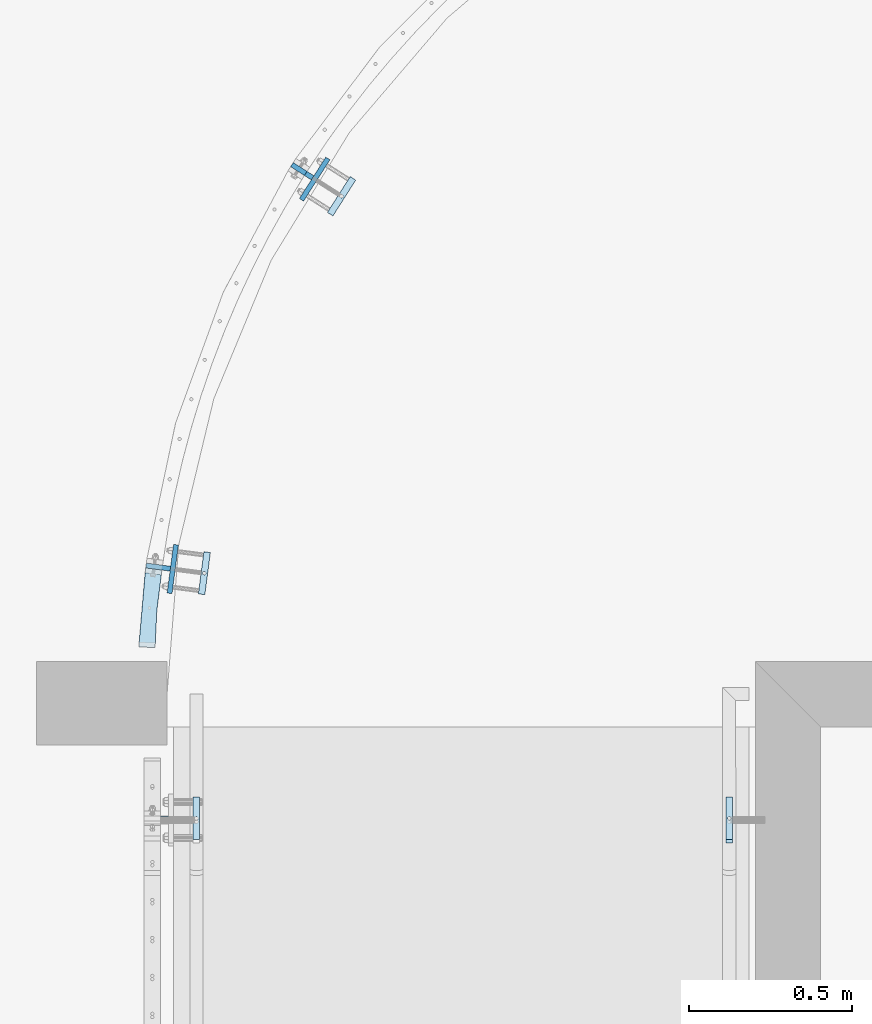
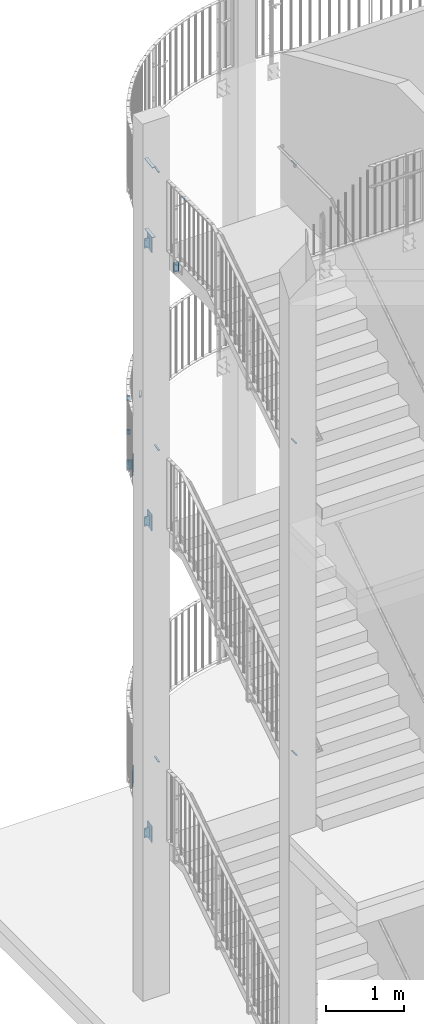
# One storey, part 112 of 296: 22 plates, 46 openings.
"""IFC2X3 building model written with IfcOpenShell, lengths in millimetres."""

import ifcopenshell
import ifcopenshell.guid

model = None  # the IFC model being written
_history = None  # IfcOwnerHistory: only IFC2X3 demands one
_inside = {}  # id of a spatial element -> (the spatial element, [elements in it])
_under = {}  # id of a project, library or spatial element -> (it, [spatial elements below it])
_declared = {}  # id of a project -> (the project, [libraries it declares])
_typed = {}  # id of a type object -> (the type object, [elements of that type])
_made_of = {}  # id of a material, layer set ... -> (it, [elements and type objects made of it])


def new_model(schema):
    """Start an empty IFC model of exactly this schema.

    Asked for "IFC4X3", IfcOpenShell would pick the latest addendum, in which some entities
    have other attributes; the version numbers below select the first issue.
    IFC2X3 requires an IfcOwnerHistory on every rooted entity: one is made here for all.
    """
    global model, _history
    if schema == "IFC4X3":
        model = ifcopenshell.file(schema_version=(4, 3, 0, 0))
    else:
        model = ifcopenshell.file(schema=schema)
    _inside.clear()
    _under.clear()
    _declared.clear()
    _typed.clear()
    _made_of.clear()
    _history = None
    if model.schema == "IFC2X3":
        org = make("IfcOrganization", Name="unknown")
        user = make(
            "IfcPersonAndOrganization",
            ThePerson=make("IfcPerson", FamilyName="unknown"),
            TheOrganization=org,
        )
        app = make(
            "IfcApplication",
            ApplicationDeveloper=org,
            Version="unknown",
            ApplicationFullName="unknown",
            ApplicationIdentifier="unknown",
        )
        _history = make(
            "IfcOwnerHistory",
            OwningUser=user,
            OwningApplication=app,
            ChangeAction="ADDED",
            CreationDate=0,
        )
    return model


def make(cls, **values):
    """One entity of the class cls with the attributes given. An attribute that is None is left unset."""
    return model.create_entity(
        cls, **{name: value for name, value in values.items() if value is not None}
    )


def entity(cls, *values):
    """Any entity or typed value of the class cls, its attributes in the order of the schema. None: left unset."""
    e = model.create_entity(cls)
    for i, value in enumerate(values):
        if value is not None:
            e[i] = value
    return e


def rooted(cls, **values):
    """An entity with a GlobalId (a new one), such as an element, a storey or a relation."""
    return make(cls, GlobalId=ifcopenshell.guid.new(), OwnerHistory=_history, **values)


def si_unit(unit_type, name, prefix=None):
    """IfcSIUnit, for example si_unit("LENGTHUNIT", "METRE", prefix="MILLI")."""
    return make("IfcSIUnit", UnitType=unit_type, Prefix=prefix, Name=name)


def converted_unit(unit_type, name, factor, base, dimensions=None, offset=None):
    """IfcConversionBasedUnit, such as the inch: factor (a typed value) times the base unit."""
    return make(
        "IfcConversionBasedUnit"
        if offset is None
        else "IfcConversionBasedUnitWithOffset",
        ConversionOffset=offset,
        Dimensions=None
        if dimensions is None
        else entity("IfcDimensionalExponents", *dimensions),
        UnitType=unit_type,
        Name=name,
        ConversionFactor=make(
            "IfcMeasureWithUnit", ValueComponent=factor, UnitComponent=base
        ),
    )


def assignment(units):
    """IfcUnitAssignment: the units of a project."""
    return None if units is None else make("IfcUnitAssignment", Units=units)


def point(xyz):
    """IfcCartesianPoint."""
    return None if xyz is None else make("IfcCartesianPoint", Coordinates=xyz)


def direction(xyz):
    """IfcDirection."""
    return None if xyz is None else make("IfcDirection", DirectionRatios=xyz)


def frame(location, z_axis=None, x_axis=None):
    """IfcAxis2Placement3D, a coordinate frame: its origin and axes. An axis left out is left unset."""
    return make(
        "IfcAxis2Placement3D",
        Location=point(location),
        Axis=direction(z_axis),
        RefDirection=direction(x_axis),
    )


def frame_2d(location, x_axis=None):
    """IfcAxis2Placement2D, a coordinate frame in the plane: its origin and x axis."""
    return make(
        "IfcAxis2Placement2D", Location=point(location), RefDirection=direction(x_axis)
    )


def origin():
    """The frame at (0, 0, 0) with its axes left unset."""
    return frame((0.0, 0.0, 0.0))


def origin_with_axes():
    """The frame at (0, 0, 0) with the z axis (0, 0, 1) and the x axis (1, 0, 0) written out."""
    return frame((0.0, 0.0, 0.0), z_axis=(0.0, 0.0, 1.0), x_axis=(1.0, 0.0, 0.0))


def origin_2d_with_axis():
    """The frame at (0, 0) in the plane with the x axis (1, 0) written out."""
    return frame_2d((0.0, 0.0), x_axis=(1.0, 0.0))


def place(relative_to, where):
    """IfcLocalPlacement: puts the frame where relative to a parent placement (None: the world)."""
    return make(
        "IfcLocalPlacement", PlacementRelTo=relative_to, RelativePlacement=where
    )


def context(
    kind, dimensions, precision=None, world=None, true_north=None, identifier=None
):
    """IfcGeometricRepresentationContext, for example the 3D "Model" context."""
    return make(
        "IfcGeometricRepresentationContext",
        ContextIdentifier=identifier,
        ContextType=kind,
        CoordinateSpaceDimension=dimensions,
        Precision=precision,
        WorldCoordinateSystem=world,
        TrueNorth=true_north,
    )


def project(units=None, contexts=None):
    """IfcProject with its units and contexts."""
    return rooted(
        "IfcProject",
        Name="project",
        RepresentationContexts=contexts,
        UnitsInContext=assignment(units),
    )


def spatial(cls, under=None, at=None, **own):
    """A site, building, storey or space (cls), placed at a placement, below another one or the project."""
    s = rooted(cls, ObjectPlacement=at, **own)
    if under is not None:
        _under.setdefault(under.id(), (under, []))[1].append(s)
    return s


def polyline(points):
    """IfcPolyline through the points."""
    return make("IfcPolyline", Points=[point(p) for p in points])


def circle_curve(where, radius):
    """IfcCircle in the frame where."""
    return make("IfcCircle", Position=where, Radius=radius)


def line_curve(start, along, magnitude):
    """IfcLine from a point along a vector."""
    return make(
        "IfcLine",
        Pnt=point(start),
        Dir=make("IfcVector", Orientation=direction(along), Magnitude=magnitude),
    )


def trimmed(basis, trim1, trim2, sense, master):
    """IfcTrimmedCurve: the piece of a basis curve between two trims."""
    return make(
        "IfcTrimmedCurve",
        BasisCurve=basis,
        Trim1=trim1,
        Trim2=trim2,
        SenseAgreement=sense,
        MasterRepresentation=master,
    )


def segment(curve, same_sense, transition):
    """IfcCompositeCurveSegment."""
    return make(
        "IfcCompositeCurveSegment",
        Transition=transition,
        SameSense=same_sense,
        ParentCurve=curve,
    )


def composite_curve(segments, self_intersect=None):
    """IfcCompositeCurve: segments joined end to end."""
    return make("IfcCompositeCurve", Segments=segments, SelfIntersect=self_intersect)


def profile(cls, at=None, kind="AREA", **sizes):
    """A parametric profile (cls). Its sizes go by their IFC names, for example OverallWidth=200.0."""
    return make(cls, ProfileType=kind, Position=at, **sizes)


def circle(**sizes):
    """IfcCircleProfileDef."""
    return profile("IfcCircleProfileDef", **sizes)


def outline(outer, holes=None, kind="AREA"):
    """IfcArbitraryClosedProfileDef: a profile drawn as a closed curve; with holes, ...WithVoids."""
    if holes is None:
        return make("IfcArbitraryClosedProfileDef", ProfileType=kind, OuterCurve=outer)
    return make(
        "IfcArbitraryProfileDefWithVoids",
        ProfileType=kind,
        OuterCurve=outer,
        InnerCurves=holes,
    )


def extrude(swept, where, along, depth):
    """IfcExtrudedAreaSolid: the profile swept, set in the frame where, extruded along a direction by depth."""
    return make(
        "IfcExtrudedAreaSolid",
        SweptArea=swept,
        Position=where,
        ExtrudedDirection=direction(along),
        Depth=depth,
    )


def shape(context_of_items, identifier, shape_type, items):
    """IfcShapeRepresentation: the items that make up one representation, for example the "Body"."""
    return make(
        "IfcShapeRepresentation",
        ContextOfItems=context_of_items,
        RepresentationIdentifier=identifier,
        RepresentationType=shape_type,
        Items=items,
    )


def material(Name=None, Category=None):
    """IfcMaterial."""
    return make("IfcMaterial", Name=Name, Category=Category)


def layer(
    of_material, thickness, ventilated=None, Name=None, Category=None, Priority=None
):
    """IfcMaterialLayer: one layer of a wall or slab, of a material (None: an air gap)."""
    return make(
        "IfcMaterialLayer",
        Material=of_material,
        LayerThickness=thickness,
        IsVentilated=ventilated,
        Name=Name,
        Category=Category,
        Priority=Priority,
    )


def layer_set(layers, Name=None):
    """IfcMaterialLayerSet."""
    return make("IfcMaterialLayerSet", MaterialLayers=layers, LayerSetName=Name)


def made_of(thing, what):
    """Note that an element or type object is made of a material, layer set ...; save() writes the relation."""
    if what is not None:
        _made_of.setdefault(what.id(), (what, []))[1].append(thing)
    return thing


def element(
    cls,
    number,
    at=None,
    inside=None,
    cuts=None,
    type_object=None,
    material=None,
    context=None,
    identifier="Body",
    shape_type=None,
    held_by="IfcProductDefinitionShape",
    body=None,
    shapes=None,
    **own,
):
    """One element of the class cls, such as IfcWall. Its Tag is "e" and its number.

    at: its placement. inside: the storey or other place that contains it. cuts: it is an
    opening in that element (IfcRelVoidsElement). A single representation is given by context,
    identifier, shape_type and body (its items); several are given by shapes. held_by: the class
    of the entity that holds the representations. save() writes the other relations.
    """
    e = rooted(cls, Tag="e%d" % number, ObjectPlacement=at, **own)
    if body is not None:
        shapes = [shape(context, identifier, shape_type, body)]
    if shapes is not None:
        e.Representation = make(held_by, Representations=shapes)
    if inside is not None:
        _inside.setdefault(inside.id(), (inside, []))[1].append(e)
    if cuts is not None:
        rooted(
            "IfcRelVoidsElement", RelatingBuildingElement=cuts, RelatedOpeningElement=e
        )
    if type_object is not None:
        _typed.setdefault(type_object.id(), (type_object, []))[1].append(e)
    return made_of(e, material)


def aggregate(whole, parts):
    """IfcRelAggregates: a whole, such as a stair, and the parts it consists of."""
    return rooted("IfcRelAggregates", RelatingObject=whole, RelatedObjects=parts)


def save(model, path):
    """Write the relations noted so far, then the file.

    IfcRelAggregates (storeys below a building ...), IfcRelContainedInSpatialStructure (elements
    in a storey), IfcRelDefinesByType, IfcRelAssociatesMaterial and IfcRelDeclares: one each for
    every whole, place, type object, material and project.
    """
    for whole, parts in _under.values():
        aggregate(whole, parts)
    for where, things in _inside.values():
        rooted(
            "IfcRelContainedInSpatialStructure",
            RelatedElements=things,
            RelatingStructure=where,
        )
    for kind, things in _typed.values():
        rooted("IfcRelDefinesByType", RelatedObjects=things, RelatingType=kind)
    for what, things in _made_of.values():
        rooted("IfcRelAssociatesMaterial", RelatedObjects=things, RelatingMaterial=what)
    for by, libraries in _declared.values():
        rooted("IfcRelDeclares", RelatingContext=by, RelatedDefinitions=libraries)
    model.write(path)


model = new_model("IFC2X3")

# Units and contexts
model_context = context("Model", 3, precision=1e-09, world=origin_with_axes())
ifc_project = project(units=[si_unit("LENGTHUNIT", "METRE", prefix="MILLI"), si_unit("AREAUNIT", "SQUARE_METRE"), si_unit("VOLUMEUNIT", "CUBIC_METRE"), converted_unit("PLANEANGLEUNIT", "DEGREE", entity("IfcPlaneAngleMeasure", 0.01745329), si_unit("PLANEANGLEUNIT", "RADIAN"), dimensions=[0, 0, 0, 0, 0, 0, 0])], contexts=[model_context])

# Site, building, storey
site_placement = place(None, origin_with_axes())
site = spatial("IfcSite", under=ifc_project, at=site_placement, Name="TZD-S?d | Treppenhausgel?nder", CompositionType="ELEMENT")
building_placement = place(site_placement, origin_with_axes())
building = spatial("IfcBuilding", under=site, at=building_placement, Name="Struktur 1", CompositionType="ELEMENT")
storey_placement = place(building_placement, origin_with_axes())
storey = spatial("IfcBuildingStorey", under=building, at=storey_placement, Name="Default Storey", CompositionType="ELEMENT", Elevation=0.0)

# Plate, openings
ifc_material = material(Name="S235JR")
ifc_layer_1 = layer(ifc_material, 15.0)
ifc_layer_set_1 = layer_set([ifc_layer_1], Name="S235JR")
plate_1_placement = place(None, frame((458.080020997, 1471.601354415, 7100.001), z_axis=(-0.843391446, 0.537299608, 0.0), x_axis=(-0.537299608, -0.843391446, 0.0)))
plate_1 = element("IfcPlate", 1, at=plate_1_placement, inside=storey, material=ifc_layer_set_1, Name="Girder", ObjectType="Girder", context=model_context, shape_type="SweptSolid", body=[
    extrude(outline(polyline([(-75.0, -125.0), (75.0, -125.0), (75.0, 125.0), (-75.0, 125.0), (-75.0, -125.0)])), origin_with_axes(), (0.0, 0.0, 1.0), 15.0),
])
opening_1_placement = place(plate_1_placement, frame((0.0, 0.0, -0.5), z_axis=(0.0, 0.0, 1.0), x_axis=(1.0, 0.0, 0.0)))
element("IfcOpeningElement", 2, at=opening_1_placement, cuts=plate_1, ObjectType="Opening", context=model_context, shape_type="SweptSolid", body=[
    extrude(circle(Radius=7.001, at=frame_2d((55.0, 55.0), x_axis=(1.0, 0.0))), origin(), (0.0, 0.0, 1.0), 16.0),
])
opening_2_placement = place(plate_1_placement, frame((0.0, 0.0, -0.5), z_axis=(0.0, 0.0, 1.0), x_axis=(1.0, 0.0, 0.0)))
element("IfcOpeningElement", 3, at=opening_2_placement, cuts=plate_1, ObjectType="Opening", context=model_context, shape_type="SweptSolid", body=[
    extrude(circle(Radius=7.001, at=frame_2d((-55.0, 55.0), x_axis=(1.0, 0.0))), origin(), (0.0, 0.0, 1.0), 16.0),
])
opening_3_placement = place(plate_1_placement, frame((0.0, 0.0, -0.5), z_axis=(0.0, 0.0, 1.0), x_axis=(1.0, 0.0, 0.0)))
element("IfcOpeningElement", 4, at=opening_3_placement, cuts=plate_1, ObjectType="Opening", context=model_context, shape_type="SweptSolid", body=[
    extrude(circle(Radius=7.001, at=frame_2d((55.0, -55.0), x_axis=(1.0, 0.0))), origin(), (0.0, 0.0, 1.0), 16.0),
])
opening_4_placement = place(plate_1_placement, frame((0.0, 0.0, -0.5), z_axis=(0.0, 0.0, 1.0), x_axis=(1.0, 0.0, 0.0)))
element("IfcOpeningElement", 5, at=opening_4_placement, cuts=plate_1, ObjectType="Opening", context=model_context, shape_type="SweptSolid", body=[
    extrude(circle(Radius=7.001, at=frame_2d((-55.0, -55.0), x_axis=(1.0, 0.0))), origin(), (0.0, 0.0, 1.0), 16.0),
])

plate_2_placement = place(None, frame((417.831717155, 1506.135019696, 7100.001), z_axis=(-0.537299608, -0.843391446, 0.0), x_axis=(0.843391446, -0.537299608, 0.0)))
plate_2 = element("IfcPlate", 6, at=plate_2_placement, inside=storey, material=ifc_layer_set_1, Name="Girder", ObjectType="Girder", context=model_context, shape_type="SweptSolid", body=[
    extrude(outline(polyline([(-37.5, -75.0), (37.5, -75.0), (37.5, 75.0), (-37.5, 75.0), (-37.5, -75.0)])), origin_with_axes(), (0.0, 0.0, 1.0), 15.0),
])
opening_5_placement = place(plate_2_placement, frame((-12.5, 0.0, -0.5), z_axis=(0.0, 0.0, 1.0), x_axis=(1.0, 0.0, 0.0)))
element("IfcOpeningElement", 7, at=opening_5_placement, cuts=plate_2, ObjectType="Opening", context=model_context, shape_type="SweptSolid", body=[
    extrude(circle(Radius=7.001, at=frame_2d((0.0, 50.0), x_axis=(1.0, 0.0))), origin(), (0.0, 0.0, 1.0), 16.0),
])
opening_6_placement = place(plate_2_placement, frame((-12.5, 0.0, -0.5), z_axis=(0.0, 0.0, 1.0), x_axis=(1.0, 0.0, 0.0)))
element("IfcOpeningElement", 8, at=opening_6_placement, cuts=plate_2, ObjectType="Opening", context=model_context, shape_type="SweptSolid", body=[
    extrude(circle(Radius=7.001, at=frame_2d((0.0, -50.0), x_axis=(1.0, 0.0))), origin(), (0.0, 0.0, 1.0), 16.0),
])

plate_3_placement = place(None, frame((407.289324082, 1512.851264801, 7615.001), z_axis=(-0.537299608, -0.843391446, 0.0), x_axis=(0.843391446, -0.537299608, 0.0)))
plate_3 = element("IfcPlate", 9, at=plate_3_placement, inside=storey, material=ifc_layer_set_1, Name="Girder", ObjectType="Girder", context=model_context, shape_type="SweptSolid", body=[
    extrude(outline(polyline([(-25.0, -40.0), (25.0, -40.0), (25.0, 40.0), (-25.0, 40.0), (-25.0, -40.0)])), origin_with_axes(), (0.0, 0.0, 1.0), 15.0),
])
opening_7_placement = place(plate_3_placement, frame((0.0, -1e-09, -0.5), z_axis=(0.0, 0.0, 1.0), x_axis=(1.0, 0.0, 0.0)))
element("IfcOpeningElement", 10, at=opening_7_placement, cuts=plate_3, ObjectType="Opening", context=model_context, shape_type="SweptSolid", body=[
    extrude(circle(Radius=5.001, at=frame_2d((0.0, 25.0), x_axis=(1.0, 0.0))), origin(), (0.0, 0.0, 1.0), 16.0),
])
opening_8_placement = place(plate_3_placement, frame((0.0, -1e-09, -0.5), z_axis=(0.0, 0.0, 1.0), x_axis=(1.0, 0.0, 0.0)))
element("IfcOpeningElement", 11, at=opening_8_placement, cuts=plate_3, ObjectType="Opening", context=model_context, shape_type="SweptSolid", body=[
    extrude(circle(Radius=5.001, at=frame_2d((0.0, -25.0), x_axis=(1.0, 0.0))), origin(), (0.0, 0.0, 1.0), 16.0),
])

plate_4_placement = place(None, frame((407.289324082, 1512.851264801, 8145.001), z_axis=(-0.537299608, -0.843391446, 0.0), x_axis=(0.843391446, -0.537299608, 0.0)))
plate_4 = element("IfcPlate", 12, at=plate_4_placement, inside=storey, material=ifc_layer_set_1, Name="Girder", ObjectType="Girder", context=model_context, shape_type="SweptSolid", body=[
    extrude(outline(polyline([(-25.0, -40.0), (25.0, -40.0), (25.0, 40.0), (-25.0, 40.0), (-25.0, -40.0)])), origin_with_axes(), (0.0, 0.0, 1.0), 15.0),
])
opening_9_placement = place(plate_4_placement, frame((0.0, -1e-09, -0.5), z_axis=(0.0, 0.0, 1.0), x_axis=(1.0, 0.0, 0.0)))
element("IfcOpeningElement", 13, at=opening_9_placement, cuts=plate_4, ObjectType="Opening", context=model_context, shape_type="SweptSolid", body=[
    extrude(circle(Radius=5.001, at=frame_2d((0.0, 25.0), x_axis=(1.0, 0.0))), origin(), (0.0, 0.0, 1.0), 16.0),
])
opening_10_placement = place(plate_4_placement, frame((0.0, -1e-09, -0.5), z_axis=(0.0, 0.0, 1.0), x_axis=(1.0, 0.0, 0.0)))
element("IfcOpeningElement", 14, at=opening_10_placement, cuts=plate_4, ObjectType="Opening", context=model_context, shape_type="SweptSolid", body=[
    extrude(circle(Radius=5.001, at=frame_2d((0.0, -25.0), x_axis=(1.0, 0.0))), origin(), (0.0, 0.0, 1.0), 16.0),
])

# Plate, opening
ifc_layer_2 = layer(ifc_material, 10.0)
ifc_layer_set_2 = layer_set([ifc_layer_2], Name="S235JR")
plate_5_placement = place(None, frame((533.98525112, 1423.244389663, 8210.0), z_axis=(0.0, 0.0, 1.0), x_axis=(-0.537299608, -0.843391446, 0.0)))
plate_5 = element("IfcPlate", 15, at=plate_5_placement, inside=storey, material=ifc_layer_set_2, Name="Girder", ObjectType="Girder", context=model_context, shape_type="SweptSolid", body=[
    extrude(outline(polyline([(-65.0, -10.0), (65.0, -10.0), (65.0, 10.0), (-65.0, 10.0), (-65.0, -10.0)])), origin_with_axes(), (0.0, 0.0, 1.0), 10.0),
])
opening_11_placement = place(plate_5_placement, frame((2.7e-08, 6e-09, -0.5), z_axis=(0.0, 0.0, 1.0), x_axis=(-0.537299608, 0.843391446, 0.0)))
element("IfcOpeningElement", 16, at=opening_11_placement, cuts=plate_5, ObjectType="Opening", context=model_context, shape_type="SweptSolid", body=[
    extrude(circle(Radius=5.001, at=origin_2d_with_axis()), origin(), (0.0, 0.0, 1.0), 11.0),
])

# Plate, openings
plate_6_placement = place(None, frame((25.023780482, 281.789112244, 7100.001), z_axis=(-0.991444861, 0.130526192, 0.0), x_axis=(-0.130526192, -0.991444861, 0.0)))
plate_6 = element("IfcPlate", 17, at=plate_6_placement, inside=storey, material=ifc_layer_set_1, Name="Girder", ObjectType="Girder", context=model_context, shape_type="SweptSolid", body=[
    extrude(outline(polyline([(-75.0, -125.0), (75.0, -125.0), (75.0, 125.0), (-75.0, 125.0), (-75.0, -125.0)])), origin_with_axes(), (0.0, 0.0, 1.0), 15.0),
])
opening_12_placement = place(plate_6_placement, frame((0.0, 0.0, -0.5), z_axis=(0.0, 0.0, 1.0), x_axis=(1.0, 0.0, 0.0)))
element("IfcOpeningElement", 18, at=opening_12_placement, cuts=plate_6, ObjectType="Opening", context=model_context, shape_type="SweptSolid", body=[
    extrude(circle(Radius=7.001, at=frame_2d((55.0, 55.0), x_axis=(1.0, 0.0))), origin(), (0.0, 0.0, 1.0), 16.0),
])
opening_13_placement = place(plate_6_placement, frame((0.0, 0.0, -0.5), z_axis=(0.0, 0.0, 1.0), x_axis=(1.0, 0.0, 0.0)))
element("IfcOpeningElement", 19, at=opening_13_placement, cuts=plate_6, ObjectType="Opening", context=model_context, shape_type="SweptSolid", body=[
    extrude(circle(Radius=7.001, at=frame_2d((-55.0, 55.0), x_axis=(1.0, 0.0))), origin(), (0.0, 0.0, 1.0), 16.0),
])
opening_14_placement = place(plate_6_placement, frame((0.0, 0.0, -0.5), z_axis=(0.0, 0.0, 1.0), x_axis=(1.0, 0.0, 0.0)))
element("IfcOpeningElement", 20, at=opening_14_placement, cuts=plate_6, ObjectType="Opening", context=model_context, shape_type="SweptSolid", body=[
    extrude(circle(Radius=7.001, at=frame_2d((55.0, -55.0), x_axis=(1.0, 0.0))), origin(), (0.0, 0.0, 1.0), 16.0),
])
opening_15_placement = place(plate_6_placement, frame((0.0, 0.0, -0.5), z_axis=(0.0, 0.0, 1.0), x_axis=(1.0, 0.0, 0.0)))
element("IfcOpeningElement", 21, at=opening_15_placement, cuts=plate_6, ObjectType="Opening", context=model_context, shape_type="SweptSolid", body=[
    extrude(circle(Radius=7.001, at=frame_2d((-55.0, -55.0), x_axis=(1.0, 0.0))), origin(), (0.0, 0.0, 1.0), 16.0),
])

plate_7_placement = place(None, frame((-26.048128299, 296.077573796, 7100.001), z_axis=(-0.130526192, -0.991444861, 0.0), x_axis=(0.991444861, -0.130526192, 0.0)))
plate_7 = element("IfcPlate", 22, at=plate_7_placement, inside=storey, material=ifc_layer_set_1, Name="Girder", ObjectType="Girder", context=model_context, shape_type="SweptSolid", body=[
    extrude(outline(polyline([(-37.5, -75.0), (37.5, -75.0), (37.5, 75.0), (-37.5, 75.0), (-37.5, -75.0)])), origin_with_axes(), (0.0, 0.0, 1.0), 15.0),
])
opening_16_placement = place(plate_7_placement, frame((-12.5, 0.0, -0.5), z_axis=(0.0, 0.0, 1.0), x_axis=(1.0, 0.0, 0.0)))
element("IfcOpeningElement", 23, at=opening_16_placement, cuts=plate_7, ObjectType="Opening", context=model_context, shape_type="SweptSolid", body=[
    extrude(circle(Radius=7.001, at=frame_2d((0.0, 50.0), x_axis=(1.0, 0.0))), origin(), (0.0, 0.0, 1.0), 16.0),
])
opening_17_placement = place(plate_7_placement, frame((-12.5, 0.0, -0.5), z_axis=(0.0, 0.0, 1.0), x_axis=(1.0, 0.0, 0.0)))
element("IfcOpeningElement", 24, at=opening_17_placement, cuts=plate_7, ObjectType="Opening", context=model_context, shape_type="SweptSolid", body=[
    extrude(circle(Radius=7.001, at=frame_2d((0.0, -50.0), x_axis=(1.0, 0.0))), origin(), (0.0, 0.0, 1.0), 16.0),
])

# Plate, opening
plate_8_placement = place(None, frame((1720.0, -480.0, 8209.999), z_axis=(0.0, 0.0, -1.0), x_axis=(0.0, -1.0, 0.0)))
plate_8 = element("IfcPlate", 25, at=plate_8_placement, inside=storey, material=ifc_layer_set_2, Name="Girder", ObjectType="Girder", context=model_context, shape_type="SweptSolid", body=[
    extrude(outline(polyline([(-65.0, -10.0), (65.0, -10.0), (65.0, 10.0), (-65.0, 10.0), (-65.0, -10.0)])), origin_with_axes(), (0.0, 0.0, -1.0), 10.0),
])
opening_18_placement = place(plate_8_placement, frame((1e-09, -5.001, 0.5), z_axis=(0.0, 0.0, 1.0), x_axis=(1.0, 0.0, 0.0)))
element("IfcOpeningElement", 26, at=opening_18_placement, cuts=plate_8, ObjectType="Opening", context=model_context, shape_type="SweptSolid", body=[
    extrude(circle(Radius=5.001, at=frame_2d((0.0, 5.001), x_axis=(1.0, 0.0))), origin(), (0.0, 0.0, -1.0), 11.0),
])

plate_9_placement = place(None, frame((1720.0, -490.0, 3309.998), z_axis=(0.0, 0.0, -1.0), x_axis=(0.0, -1.0, 0.0)))
plate_9 = element("IfcPlate", 27, at=plate_9_placement, inside=storey, material=ifc_layer_set_2, Name="Girder", ObjectType="Girder", context=model_context, shape_type="SweptSolid", body=[
    extrude(outline(polyline([(-65.0, -10.0), (65.0, -10.0), (65.0, 10.0), (-65.0, 10.0), (-65.0, -10.0)])), origin_with_axes(), (0.0, 0.0, -1.0), 10.0),
])
opening_19_placement = place(plate_9_placement, frame((0.0, -5.001, 0.5), z_axis=(0.0, 0.0, 1.0), x_axis=(1.0, 0.0, 0.0)))
element("IfcOpeningElement", 28, at=opening_19_placement, cuts=plate_9, ObjectType="Opening", context=model_context, shape_type="SweptSolid", body=[
    extrude(circle(Radius=5.001, at=frame_2d((0.0, 5.001), x_axis=(1.0, 0.0))), origin(), (0.0, 0.0, -1.0), 11.0),
])

plate_10_placement = place(None, frame((114.253818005, 270.041754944, 8210.0), z_axis=(0.0, 0.0, 1.0), x_axis=(-0.130526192, -0.991444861, 0.0)))
plate_10 = element("IfcPlate", 29, at=plate_10_placement, inside=storey, material=ifc_layer_set_2, Name="Girder", ObjectType="Girder", context=model_context, shape_type="SweptSolid", body=[
    extrude(outline(polyline([(-65.0, -10.0), (65.0, -10.0), (65.0, 10.0), (-65.0, 10.0), (-65.0, -10.0)])), origin_with_axes(), (0.0, 0.0, 1.0), 10.0),
])
opening_20_placement = place(plate_10_placement, frame((0.0, 0.0, -0.5), z_axis=(0.0, 0.0, 1.0), x_axis=(-0.130526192, 0.991444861, 0.0)))
element("IfcOpeningElement", 30, at=opening_20_placement, cuts=plate_10, ObjectType="Opening", context=model_context, shape_type="SweptSolid", body=[
    extrude(circle(Radius=5.001, at=origin_2d_with_axis()), origin(), (0.0, 0.0, 1.0), 11.0),
])

plate_11_placement = place(None, frame((1720.0, -480.0, 12585.0), z_axis=(0.0, 0.0, -1.0), x_axis=(0.0, -1.0, 0.0)))
plate_11 = element("IfcPlate", 31, at=plate_11_placement, inside=storey, material=ifc_layer_set_2, Name="Girder", ObjectType="Girder", context=model_context, shape_type="SweptSolid", body=[
    extrude(outline(polyline([(-65.0, -10.0), (65.0, -10.0), (65.0, 10.0), (-65.0, 10.0), (-65.0, -10.0)])), origin_with_axes(), (0.0, 0.0, -1.0), 10.0),
])
opening_21_placement = place(plate_11_placement, frame((0.0, -5.001, 0.5), z_axis=(0.0, 0.0, 1.0), x_axis=(1.0, 0.0, 0.0)))
element("IfcOpeningElement", 32, at=opening_21_placement, cuts=plate_11, ObjectType="Opening", context=model_context, shape_type="SweptSolid", body=[
    extrude(circle(Radius=5.001, at=frame_2d((0.0, 5.001), x_axis=(1.0, 0.0))), origin(), (0.0, 0.0, -1.0), 11.0),
])

# Plate, openings
plate_12_placement = place(None, frame((458.080020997, 1471.601354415, 2200.001), z_axis=(-0.843391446, 0.537299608, 0.0), x_axis=(-0.537299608, -0.843391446, 0.0)))
plate_12 = element("IfcPlate", 33, at=plate_12_placement, inside=storey, material=ifc_layer_set_1, Name="Girder", ObjectType="Girder", context=model_context, shape_type="SweptSolid", body=[
    extrude(outline(polyline([(-75.0, -125.0), (75.0, -125.0), (75.0, 125.0), (-75.0, 125.0), (-75.0, -125.0)])), origin_with_axes(), (0.0, 0.0, 1.0), 15.0),
])
opening_22_placement = place(plate_12_placement, frame((0.0, 0.0, -0.5), z_axis=(0.0, 0.0, 1.0), x_axis=(1.0, 0.0, 0.0)))
element("IfcOpeningElement", 34, at=opening_22_placement, cuts=plate_12, ObjectType="Opening", context=model_context, shape_type="SweptSolid", body=[
    extrude(circle(Radius=7.001, at=frame_2d((55.0, 55.0), x_axis=(1.0, 0.0))), origin(), (0.0, 0.0, 1.0), 16.0),
])
opening_23_placement = place(plate_12_placement, frame((0.0, 0.0, -0.5), z_axis=(0.0, 0.0, 1.0), x_axis=(1.0, 0.0, 0.0)))
element("IfcOpeningElement", 35, at=opening_23_placement, cuts=plate_12, ObjectType="Opening", context=model_context, shape_type="SweptSolid", body=[
    extrude(circle(Radius=7.001, at=frame_2d((-55.0, 55.0), x_axis=(1.0, 0.0))), origin(), (0.0, 0.0, 1.0), 16.0),
])
opening_24_placement = place(plate_12_placement, frame((0.0, 0.0, -0.5), z_axis=(0.0, 0.0, 1.0), x_axis=(1.0, 0.0, 0.0)))
element("IfcOpeningElement", 36, at=opening_24_placement, cuts=plate_12, ObjectType="Opening", context=model_context, shape_type="SweptSolid", body=[
    extrude(circle(Radius=7.001, at=frame_2d((55.0, -55.0), x_axis=(1.0, 0.0))), origin(), (0.0, 0.0, 1.0), 16.0),
])
opening_25_placement = place(plate_12_placement, frame((0.0, 0.0, -0.5), z_axis=(0.0, 0.0, 1.0), x_axis=(1.0, 0.0, 0.0)))
element("IfcOpeningElement", 37, at=opening_25_placement, cuts=plate_12, ObjectType="Opening", context=model_context, shape_type="SweptSolid", body=[
    extrude(circle(Radius=7.001, at=frame_2d((-55.0, -55.0), x_axis=(1.0, 0.0))), origin(), (0.0, 0.0, 1.0), 16.0),
])

plate_13_placement = place(None, frame((25.023780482, 281.789112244, 2200.001), z_axis=(-0.991444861, 0.130526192, 0.0), x_axis=(-0.130526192, -0.991444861, 0.0)))
plate_13 = element("IfcPlate", 38, at=plate_13_placement, inside=storey, material=ifc_layer_set_1, Name="Girder", ObjectType="Girder", context=model_context, shape_type="SweptSolid", body=[
    extrude(outline(polyline([(-75.0, -125.0), (75.0, -125.0), (75.0, 125.0), (-75.0, 125.0), (-75.0, -125.0)])), origin_with_axes(), (0.0, 0.0, 1.0), 15.0),
])
opening_26_placement = place(plate_13_placement, frame((0.0, 0.0, -0.5), z_axis=(0.0, 0.0, 1.0), x_axis=(1.0, 0.0, 0.0)))
element("IfcOpeningElement", 39, at=opening_26_placement, cuts=plate_13, ObjectType="Opening", context=model_context, shape_type="SweptSolid", body=[
    extrude(circle(Radius=7.001, at=frame_2d((55.0, 55.0), x_axis=(1.0, 0.0))), origin(), (0.0, 0.0, 1.0), 16.0),
])
opening_27_placement = place(plate_13_placement, frame((0.0, 0.0, -0.5), z_axis=(0.0, 0.0, 1.0), x_axis=(1.0, 0.0, 0.0)))
element("IfcOpeningElement", 40, at=opening_27_placement, cuts=plate_13, ObjectType="Opening", context=model_context, shape_type="SweptSolid", body=[
    extrude(circle(Radius=7.001, at=frame_2d((-55.0, 55.0), x_axis=(1.0, 0.0))), origin(), (0.0, 0.0, 1.0), 16.0),
])
opening_28_placement = place(plate_13_placement, frame((0.0, 0.0, -0.5), z_axis=(0.0, 0.0, 1.0), x_axis=(1.0, 0.0, 0.0)))
element("IfcOpeningElement", 41, at=opening_28_placement, cuts=plate_13, ObjectType="Opening", context=model_context, shape_type="SweptSolid", body=[
    extrude(circle(Radius=7.001, at=frame_2d((55.0, -55.0), x_axis=(1.0, 0.0))), origin(), (0.0, 0.0, 1.0), 16.0),
])
opening_29_placement = place(plate_13_placement, frame((0.0, 0.0, -0.5), z_axis=(0.0, 0.0, 1.0), x_axis=(1.0, 0.0, 0.0)))
element("IfcOpeningElement", 42, at=opening_29_placement, cuts=plate_13, ObjectType="Opening", context=model_context, shape_type="SweptSolid", body=[
    extrude(circle(Radius=7.001, at=frame_2d((-55.0, -55.0), x_axis=(1.0, 0.0))), origin(), (0.0, 0.0, 1.0), 16.0),
])

plate_14_placement = place(None, frame((-26.048128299, 296.077573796, 2200.001), z_axis=(-0.130526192, -0.991444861, 0.0), x_axis=(0.991444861, -0.130526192, 0.0)))
plate_14 = element("IfcPlate", 43, at=plate_14_placement, inside=storey, material=ifc_layer_set_1, Name="Girder", ObjectType="Girder", context=model_context, shape_type="SweptSolid", body=[
    extrude(outline(polyline([(-37.5, -75.0), (37.5, -75.0), (37.5, 75.0), (-37.5, 75.0), (-37.5, -75.0)])), origin_with_axes(), (0.0, 0.0, 1.0), 15.0),
])
opening_30_placement = place(plate_14_placement, frame((-12.5, 0.0, -0.5), z_axis=(0.0, 0.0, 1.0), x_axis=(1.0, 0.0, 0.0)))
element("IfcOpeningElement", 44, at=opening_30_placement, cuts=plate_14, ObjectType="Opening", context=model_context, shape_type="SweptSolid", body=[
    extrude(circle(Radius=7.001, at=frame_2d((0.0, 50.0), x_axis=(1.0, 0.0))), origin(), (0.0, 0.0, 1.0), 16.0),
])
opening_31_placement = place(plate_14_placement, frame((-12.5, 0.0, -0.5), z_axis=(0.0, 0.0, 1.0), x_axis=(1.0, 0.0, 0.0)))
element("IfcOpeningElement", 45, at=opening_31_placement, cuts=plate_14, ObjectType="Opening", context=model_context, shape_type="SweptSolid", body=[
    extrude(circle(Radius=7.001, at=frame_2d((0.0, -50.0), x_axis=(1.0, 0.0))), origin(), (0.0, 0.0, 1.0), 16.0),
])

# Plate, opening
plate_15_placement = place(None, frame((114.253818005, 270.041754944, 3310.0), z_axis=(0.0, 0.0, 1.0), x_axis=(-0.130526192, -0.991444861, 0.0)))
plate_15 = element("IfcPlate", 46, at=plate_15_placement, inside=storey, material=ifc_layer_set_2, Name="Girder", ObjectType="Girder", context=model_context, shape_type="SweptSolid", body=[
    extrude(outline(polyline([(-65.0, -10.0), (65.0, -10.0), (65.0, 10.0), (-65.0, 10.0), (-65.0, -10.0)])), origin_with_axes(), (0.0, 0.0, 1.0), 10.0),
])
opening_32_placement = place(plate_15_placement, frame((0.0, 0.0, -0.5), z_axis=(0.0, 0.0, 1.0), x_axis=(-0.130526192, 0.991444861, 0.0)))
element("IfcOpeningElement", 47, at=opening_32_placement, cuts=plate_15, ObjectType="Opening", context=model_context, shape_type="SweptSolid", body=[
    extrude(circle(Radius=5.001, at=origin_2d_with_axis()), origin(), (0.0, 0.0, 1.0), 11.0),
])

plate_16_placement = place(None, frame((114.253818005, 270.041754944, 12585.0), z_axis=(0.0, 0.0, 1.0), x_axis=(-0.130526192, -0.991444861, 0.0)))
plate_16 = element("IfcPlate", 48, at=plate_16_placement, inside=storey, material=ifc_layer_set_2, Name="Girder", ObjectType="Girder", context=model_context, shape_type="SweptSolid", body=[
    extrude(outline(polyline([(-65.0, -10.0), (65.0, -10.0), (65.0, 10.0), (-65.0, 10.0), (-65.0, -10.0)])), origin_with_axes(), (0.0, 0.0, 1.0), 10.0),
])
opening_33_placement = place(plate_16_placement, frame((0.0, 0.0, -0.5), z_axis=(0.0, 0.0, 1.0), x_axis=(-0.130526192, 0.991444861, 0.0)))
element("IfcOpeningElement", 49, at=opening_33_placement, cuts=plate_16, ObjectType="Opening", context=model_context, shape_type="SweptSolid", body=[
    extrude(circle(Radius=5.001, at=origin_2d_with_axis()), origin(), (0.0, 0.0, 1.0), 11.0),
])

# Plate, openings
plate_17_placement = place(None, frame((25.023780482, 281.789112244, 11475.001), z_axis=(-0.991444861, 0.130526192, 0.0), x_axis=(-0.130526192, -0.991444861, 0.0)))
plate_17 = element("IfcPlate", 50, at=plate_17_placement, inside=storey, material=ifc_layer_set_1, Name="Girder", ObjectType="Girder", context=model_context, shape_type="SweptSolid", body=[
    extrude(outline(polyline([(-75.0, -125.0), (75.0, -125.0), (75.0, 125.0), (-75.0, 125.0), (-75.0, -125.0)])), origin_with_axes(), (0.0, 0.0, 1.0), 15.0),
])
opening_34_placement = place(plate_17_placement, frame((0.0, 0.0, -0.5), z_axis=(0.0, 0.0, 1.0), x_axis=(1.0, 0.0, 0.0)))
element("IfcOpeningElement", 51, at=opening_34_placement, cuts=plate_17, ObjectType="Opening", context=model_context, shape_type="SweptSolid", body=[
    extrude(circle(Radius=7.001, at=frame_2d((55.0, 55.0), x_axis=(1.0, 0.0))), origin(), (0.0, 0.0, 1.0), 16.0),
])
opening_35_placement = place(plate_17_placement, frame((0.0, 0.0, -0.5), z_axis=(0.0, 0.0, 1.0), x_axis=(1.0, 0.0, 0.0)))
element("IfcOpeningElement", 52, at=opening_35_placement, cuts=plate_17, ObjectType="Opening", context=model_context, shape_type="SweptSolid", body=[
    extrude(circle(Radius=7.001, at=frame_2d((-55.0, 55.0), x_axis=(1.0, 0.0))), origin(), (0.0, 0.0, 1.0), 16.0),
])
opening_36_placement = place(plate_17_placement, frame((0.0, 0.0, -0.5), z_axis=(0.0, 0.0, 1.0), x_axis=(1.0, 0.0, 0.0)))
element("IfcOpeningElement", 53, at=opening_36_placement, cuts=plate_17, ObjectType="Opening", context=model_context, shape_type="SweptSolid", body=[
    extrude(circle(Radius=7.001, at=frame_2d((55.0, -55.0), x_axis=(1.0, 0.0))), origin(), (0.0, 0.0, 1.0), 16.0),
])
opening_37_placement = place(plate_17_placement, frame((0.0, 0.0, -0.5), z_axis=(0.0, 0.0, 1.0), x_axis=(1.0, 0.0, 0.0)))
element("IfcOpeningElement", 54, at=opening_37_placement, cuts=plate_17, ObjectType="Opening", context=model_context, shape_type="SweptSolid", body=[
    extrude(circle(Radius=7.001, at=frame_2d((-55.0, -55.0), x_axis=(1.0, 0.0))), origin(), (0.0, 0.0, 1.0), 16.0),
])

plate_18_placement = place(None, frame((-26.048128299, 296.077573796, 11475.001), z_axis=(-0.130526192, -0.991444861, 0.0), x_axis=(0.991444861, -0.130526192, 0.0)))
plate_18 = element("IfcPlate", 55, at=plate_18_placement, inside=storey, material=ifc_layer_set_1, Name="Girder", ObjectType="Girder", context=model_context, shape_type="SweptSolid", body=[
    extrude(outline(polyline([(-37.5, -75.0), (37.5, -75.0), (37.5, 75.0), (-37.5, 75.0), (-37.5, -75.0)])), origin_with_axes(), (0.0, 0.0, 1.0), 15.0),
])
opening_38_placement = place(plate_18_placement, frame((-12.5, 0.0, -0.5), z_axis=(0.0, 0.0, 1.0), x_axis=(1.0, 0.0, 0.0)))
element("IfcOpeningElement", 56, at=opening_38_placement, cuts=plate_18, ObjectType="Opening", context=model_context, shape_type="SweptSolid", body=[
    extrude(circle(Radius=7.001, at=frame_2d((0.0, 50.0), x_axis=(1.0, 0.0))), origin(), (0.0, 0.0, 1.0), 16.0),
])
opening_39_placement = place(plate_18_placement, frame((-12.5, 0.0, -0.5), z_axis=(0.0, 0.0, 1.0), x_axis=(1.0, 0.0, 0.0)))
element("IfcOpeningElement", 57, at=opening_39_placement, cuts=plate_18, ObjectType="Opening", context=model_context, shape_type="SweptSolid", body=[
    extrude(circle(Radius=7.001, at=frame_2d((0.0, -50.0), x_axis=(1.0, 0.0))), origin(), (0.0, 0.0, 1.0), 16.0),
])

plate_19_placement = place(None, frame((-32.5, -472.5, 11565.001), z_axis=(0.0, -1.0, 0.0), x_axis=(1.0, 0.0, 0.0)))
plate_19 = element("IfcPlate", 58, at=plate_19_placement, inside=storey, material=ifc_layer_set_1, Name="Girder", ObjectType="Girder", context=model_context, shape_type="SweptSolid", body=[
    extrude(outline(polyline([(-37.5, -75.0), (37.5, -75.0), (37.5, 75.0), (-37.5, 75.0), (-37.5, -75.0)])), origin_with_axes(), (0.0, 0.0, 1.0), 15.0),
])
opening_40_placement = place(plate_19_placement, frame((-12.5, 0.0, -0.5), z_axis=(0.0, 0.0, 1.0), x_axis=(1.0, 0.0, 0.0)))
element("IfcOpeningElement", 59, at=opening_40_placement, cuts=plate_19, ObjectType="Opening", context=model_context, shape_type="SweptSolid", body=[
    extrude(circle(Radius=7.001, at=frame_2d((0.0, 50.0), x_axis=(1.0, 0.0))), origin(), (0.0, 0.0, 1.0), 16.0),
])
opening_41_placement = place(plate_19_placement, frame((-12.5, 0.0, -0.5), z_axis=(0.0, 0.0, 1.0), x_axis=(1.0, 0.0, 0.0)))
element("IfcOpeningElement", 60, at=opening_41_placement, cuts=plate_19, ObjectType="Opening", context=model_context, shape_type="SweptSolid", body=[
    extrude(circle(Radius=7.001, at=frame_2d((0.0, -50.0), x_axis=(1.0, 0.0))), origin(), (0.0, 0.0, 1.0), 16.0),
])

# Plate, opening
plate_20_placement = place(None, frame((90.0, -480.0, 12585.0), z_axis=(0.0, 0.0, 1.0), x_axis=(0.0, -1.0, 0.0)))
plate_20 = element("IfcPlate", 61, at=plate_20_placement, inside=storey, material=ifc_layer_set_2, Name="Girder", ObjectType="Girder", context=model_context, shape_type="SweptSolid", body=[
    extrude(outline(polyline([(-65.0, -10.0), (65.0, -10.0), (65.0, 10.0), (-65.0, 10.0), (-65.0, -10.0)])), origin_with_axes(), (0.0, 0.0, 1.0), 10.0),
])
opening_42_placement = place(plate_20_placement, frame((0.0, 0.0, -0.5), z_axis=(0.0, 0.0, 1.0), x_axis=(0.0, 1.0, 0.0)))
element("IfcOpeningElement", 62, at=opening_42_placement, cuts=plate_20, ObjectType="Opening", context=model_context, shape_type="SweptSolid", body=[
    extrude(circle(Radius=5.001, at=origin_2d_with_axis()), origin(), (0.0, 0.0, 1.0), 11.0),
])

# Plate, openings
plate_21_placement = place(None, frame((-17.486211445, 264.69150724, 11715.0), z_axis=(0.0, 0.0, 1.0), x_axis=(-0.991444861, 0.130526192, 0.0)))
plate_21 = element("IfcPlate", 63, at=plate_21_placement, inside=storey, material=ifc_layer_set_2, Name="-", ObjectType="-", context=model_context, shape_type="SweptSolid", body=[
    extrude(outline(polyline([(0.0, 0.0), (50.001415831, 0.0), (49.15230877, 113.777177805), (39.730362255, 227.166745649), (-10.09791287, 223.026335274), (-0.847689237, 111.70338746), (0.0, 0.0)])), origin_with_axes(), (0.0, 0.0, 1.0), 10.0),
])
opening_43_placement = place(plate_21_placement, frame((0.0, 0.0, -0.01), z_axis=(0.0, 0.0, 1.0), x_axis=(1.0, 0.0, 0.0)))
element("IfcOpeningElement", 64, at=opening_43_placement, cuts=plate_21, ObjectType="Opening", context=model_context, shape_type="SweptSolid", body=[
    extrude(outline(composite_curve([segment(trimmed(line_curve((49.15230877, 113.777177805), (-0.082808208, 0.996565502), 113.780346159), [point((49.15230877, 113.777177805))], [point((39.730362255, 227.166745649))], True, "CARTESIAN"), True, "CONTINUOUS"), segment(trimmed(circle_curve(frame_2d((-2964.914627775, -22.5), x_axis=(-1.0, 0.0)), 3014.999999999), [point((39.730362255, 227.166745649))], [point((50.001415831, 0.0))], False, "CARTESIAN"), True, "CONTINUOUS"), segment(trimmed(line_curve((50.001415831, 0.0), (-0.007462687, 0.999972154), 113.780346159), [point((50.001415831, 0.0))], [point((49.15230877, 113.777177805))], True, "CARTESIAN"), True, "CONTINUOUS")], self_intersect=False)), origin(), (0.0, 0.0, 1.0), 10.02),
])
opening_44_placement = place(plate_21_placement, origin_with_axes())
element("IfcOpeningElement", 65, at=opening_44_placement, cuts=plate_21, ObjectType="Opening", context=model_context, shape_type="SweptSolid", body=[
    extrude(outline(composite_curve([segment(trimmed(line_curve((-0.847689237, 111.70338746), (0.007588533, -0.999971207), 111.706603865), [point((-0.847689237, 111.70338746))], [point((0.0, 0.0))], True, "CARTESIAN"), True, "CONTINUOUS"), segment(trimmed(circle_curve(frame_2d((-2964.914627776, -22.5), x_axis=(1.0, 0.0)), 2965.0), [point((0.0, 0.0))], [point((-10.09791287, 223.026335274))], True, "CARTESIAN"), True, "CONTINUOUS"), segment(trimmed(line_curve((-10.09791287, 223.026335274), (0.082808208, -0.996565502), 111.706603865), [point((-10.09791287, 223.026335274))], [point((-0.847689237, 111.70338746))], True, "CARTESIAN"), True, "CONTINUOUS")], self_intersect=False)), origin(), (0.0, 0.0, 1.0), 10.0),
])

plate_22_placement = place(None, frame((-65.175954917, 286.099415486, 12825.0), z_axis=(0.0, 0.0, -1.0), x_axis=(0.991444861, -0.130526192, 0.0)))
plate_22 = element("IfcPlate", 66, at=plate_22_placement, inside=storey, material=ifc_layer_set_2, Name="Girder", ObjectType="Girder", context=model_context, shape_type="SweptSolid", body=[
    extrude(outline(polyline([(0.0, 0.0), (50.000157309, 0.0), (50.301720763, 119.217704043), (60.173956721, 238.026335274), (10.345681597, 242.166745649), (0.301721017, 121.291473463), (0.0, 0.0)])), origin_with_axes(), (0.0, 0.0, 1.0), 10.0),
])
opening_45_placement = place(plate_22_placement, origin_with_axes())
element("IfcOpeningElement", 67, at=opening_45_placement, cuts=plate_22, ObjectType="Opening", context=model_context, shape_type="SweptSolid", body=[
    extrude(outline(composite_curve([segment(trimmed(line_curve((50.301720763, 119.217704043), (0.082808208, 0.996565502), 119.218085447), [point((50.301720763, 119.217704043))], [point((60.173956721, 238.026335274))], True, "CARTESIAN"), True, "CONTINUOUS"), segment(trimmed(circle_curve(frame_2d((3014.990671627, -7.5), x_axis=(1.0, 0.0)), 2965.0), [point((60.173956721, 238.026335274))], [point((50.000157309, 0.0))], True, "CARTESIAN"), True, "CONTINUOUS"), segment(trimmed(line_curve((50.000157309, 0.0), (0.002529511, 0.999996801), 119.218085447), [point((50.000157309, 0.0))], [point((50.301720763, 119.217704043))], True, "CARTESIAN"), True, "CONTINUOUS")], self_intersect=False)), origin(), (0.0, 0.0, 1.0), 10.0),
])
opening_46_placement = place(plate_22_placement, frame((0.0, 0.0, -0.01), z_axis=(0.0, 0.0, 1.0), x_axis=(1.0, 0.0, 0.0)))
element("IfcOpeningElement", 68, at=opening_46_placement, cuts=plate_22, ObjectType="Opening", context=model_context, shape_type="SweptSolid", body=[
    extrude(outline(composite_curve([segment(trimmed(line_curve((0.301721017, 121.291473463), (-0.002487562, -0.999996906), 121.291848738), [point((0.301721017, 121.291473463))], [point((0.0, 0.0))], True, "CARTESIAN"), True, "CONTINUOUS"), segment(trimmed(circle_curve(frame_2d((3014.990671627, -7.5), x_axis=(-1.0, 0.0)), 3015.0), [point((0.0, 0.0))], [point((10.345681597, 242.166745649))], False, "CARTESIAN"), True, "CONTINUOUS"), segment(trimmed(line_curve((10.345681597, 242.166745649), (-0.082808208, -0.996565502), 121.291848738), [point((10.345681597, 242.166745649))], [point((0.301721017, 121.291473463))], True, "CARTESIAN"), True, "CONTINUOUS")], self_intersect=False)), origin(), (0.0, 0.0, 1.0), 10.02),
])

save(model, "model.ifc")
